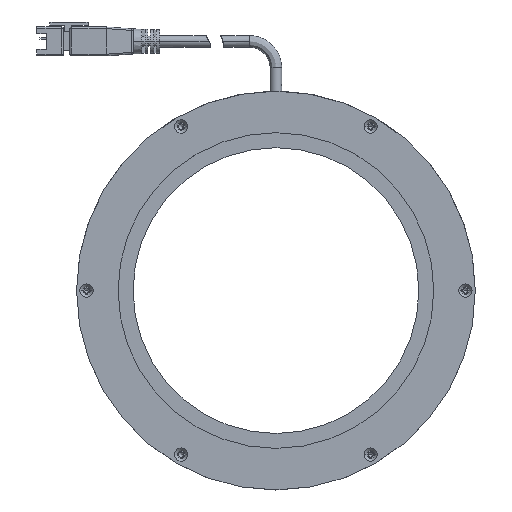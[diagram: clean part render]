
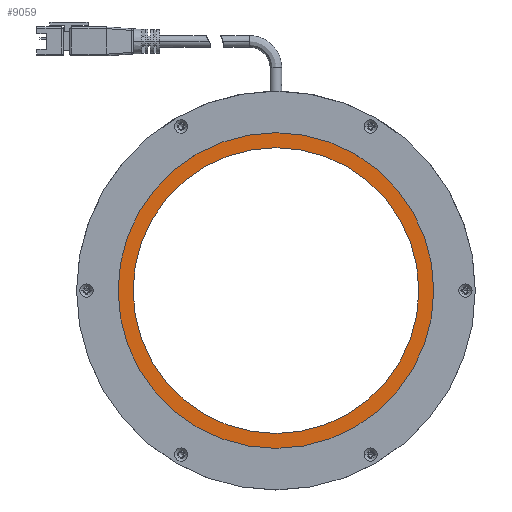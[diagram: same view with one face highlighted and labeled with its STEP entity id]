
A CAD part, top view. The second image highlights one B-rep face of the part: STEP entity #9059.
In plain terms, the highlighted planar face has unit normal (0, 0, 1).
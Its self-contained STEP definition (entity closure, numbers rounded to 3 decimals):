
#40 = PLANE ( 'NONE',  #2134 ) ;
#110 = CARTESIAN_POINT ( 'NONE',  ( 0., 0., 1.7 ) ) ;
#753 = DIRECTION ( 'NONE',  ( 1., 0., 0. ) ) ;
#820 = AXIS2_PLACEMENT_3D ( 'NONE', #2132, #9106, #4408 ) ;
#842 = VERTEX_POINT ( 'NONE', #1726 ) ;
#1682 = CARTESIAN_POINT ( 'NONE',  ( 0., 0., 1.7 ) ) ;
#1726 = CARTESIAN_POINT ( 'NONE',  ( 43., 0., 1.7 ) ) ;
#2115 = ORIENTED_EDGE ( 'NONE', *, *, #8224, .T. ) ;
#2132 = CARTESIAN_POINT ( 'NONE',  ( 0., 0., 1.7 ) ) ;
#2134 = AXIS2_PLACEMENT_3D ( 'NONE', #3195, #6348, #5563 ) ;
#2195 = EDGE_CURVE ( 'NONE', #3823, #842, #9728, .T. ) ;
#2297 = VERTEX_POINT ( 'NONE', #2807 ) ;
#2333 = CARTESIAN_POINT ( 'NONE',  ( -49.25, 0., 1.7 ) ) ;
#2692 = DIRECTION ( 'NONE',  ( 1., 0., 0. ) ) ;
#2807 = CARTESIAN_POINT ( 'NONE',  ( 49.25, 0., 1.7 ) ) ;
#3195 = CARTESIAN_POINT ( 'NONE',  ( 0., 0., 1.7 ) ) ;
#3416 = CARTESIAN_POINT ( 'NONE',  ( 0., 0., 1.7 ) ) ;
#3562 = ORIENTED_EDGE ( 'NONE', *, *, #2195, .F. ) ;
#3823 = VERTEX_POINT ( 'NONE', #8950 ) ;
#3971 = FACE_BOUND ( 'NONE', #4845, .T. ) ;
#4092 = DIRECTION ( 'NONE',  ( 0., 0., 1. ) ) ;
#4273 = AXIS2_PLACEMENT_3D ( 'NONE', #110, #4092, #7243 ) ;
#4408 = DIRECTION ( 'NONE',  ( 1., 0., 0. ) ) ;
#4579 = ORIENTED_EDGE ( 'NONE', *, *, #5043, .F. ) ;
#4845 = EDGE_LOOP ( 'NONE', ( #3562, #4579 ) ) ;
#5043 = EDGE_CURVE ( 'NONE', #842, #3823, #5677, .T. ) ;
#5102 = CIRCLE ( 'NONE', #4273, 49.25 ) ;
#5165 = ORIENTED_EDGE ( 'NONE', *, *, #8724, .T. ) ;
#5422 = FACE_OUTER_BOUND ( 'NONE', #6462, .T. ) ;
#5555 = DIRECTION ( 'NONE',  ( 0., 0., 1. ) ) ;
#5563 = DIRECTION ( 'NONE',  ( 1., 0., 0. ) ) ;
#5677 = CIRCLE ( 'NONE', #8640, 43. ) ;
#6348 = DIRECTION ( 'NONE',  ( 0., 0., 1. ) ) ;
#6462 = EDGE_LOOP ( 'NONE', ( #5165, #2115 ) ) ;
#6623 = DIRECTION ( 'NONE',  ( 0., 0., 1. ) ) ;
#7243 = DIRECTION ( 'NONE',  ( 1., 0., 0. ) ) ;
#8224 = EDGE_CURVE ( 'NONE', #8703, #2297, #5102, .T. ) ;
#8258 = CIRCLE ( 'NONE', #9732, 49.25 ) ;
#8640 = AXIS2_PLACEMENT_3D ( 'NONE', #1682, #5555, #753 ) ;
#8703 = VERTEX_POINT ( 'NONE', #2333 ) ;
#8724 = EDGE_CURVE ( 'NONE', #2297, #8703, #8258, .T. ) ;
#8950 = CARTESIAN_POINT ( 'NONE',  ( -43., 0., 1.7 ) ) ;
#9059 = ADVANCED_FACE ( 'NONE', ( #3971, #5422 ), #40, .T. ) ;
#9106 = DIRECTION ( 'NONE',  ( 0., 0., 1. ) ) ;
#9728 = CIRCLE ( 'NONE', #820, 43. ) ;
#9732 = AXIS2_PLACEMENT_3D ( 'NONE', #3416, #6623, #2692 ) ;
